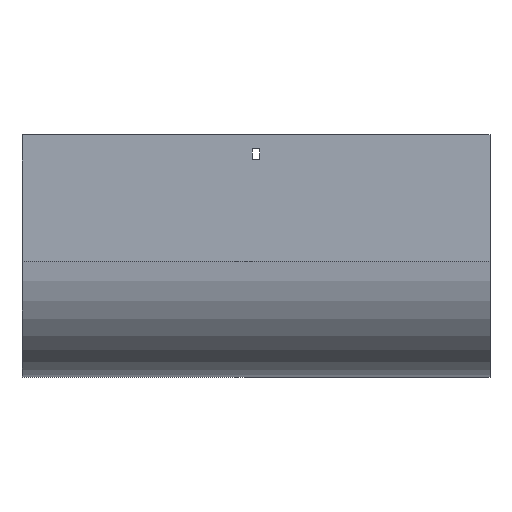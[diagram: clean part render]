
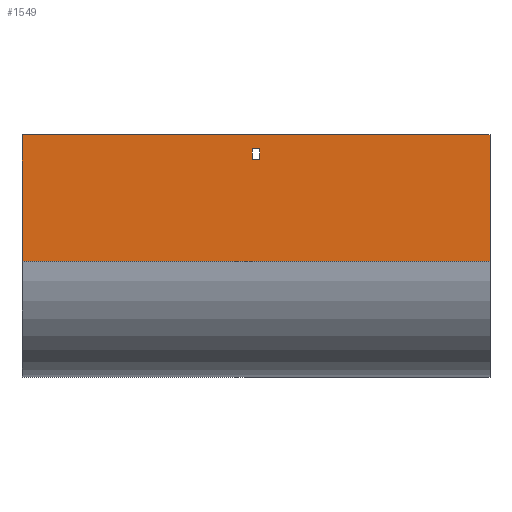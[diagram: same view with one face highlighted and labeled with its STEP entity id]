
A CAD part, front view. The second image highlights one B-rep face of the part: STEP entity #1549.
In plain terms, the highlighted planar face has unit normal (0, -1, 0).
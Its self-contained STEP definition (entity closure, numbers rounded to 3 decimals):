
#12 = CARTESIAN_POINT ( 'NONE',  ( -3.25, -79., -21. ) ) ;
#20 = CARTESIAN_POINT ( 'NONE',  ( -3.25, -79., -21. ) ) ;
#56 = LINE ( 'NONE', #1271, #1047 ) ;
#68 = DIRECTION ( 'NONE',  ( 0., 1., 0. ) ) ;
#96 = DIRECTION ( 'NONE',  ( 0., 0., -1. ) ) ;
#99 = CARTESIAN_POINT ( 'NONE',  ( 202., -79., -109. ) ) ;
#100 = VERTEX_POINT ( 'NONE', #1796 ) ;
#117 = LINE ( 'NONE', #694, #1024 ) ;
#181 = CARTESIAN_POINT ( 'NONE',  ( 3.25, -79., -21. ) ) ;
#185 = VECTOR ( 'NONE', #307, 1000. ) ;
#207 = VECTOR ( 'NONE', #409, 1000. ) ;
#213 = CARTESIAN_POINT ( 'NONE',  ( 202., -79., -109. ) ) ;
#234 = VERTEX_POINT ( 'NONE', #1592 ) ;
#278 = LINE ( 'NONE', #1428, #1049 ) ;
#297 = PLANE ( 'NONE',  #796 ) ;
#304 = ORIENTED_EDGE ( 'NONE', *, *, #1326, .T. ) ;
#307 = DIRECTION ( 'NONE',  ( 0., 0., -1. ) ) ;
#377 = ORIENTED_EDGE ( 'NONE', *, *, #1154, .T. ) ;
#389 = CARTESIAN_POINT ( 'NONE',  ( -202., -79., -109. ) ) ;
#396 = CARTESIAN_POINT ( 'NONE',  ( -3.25, -79., -12. ) ) ;
#409 = DIRECTION ( 'NONE',  ( 0., 0., -1. ) ) ;
#427 = EDGE_LOOP ( 'NONE', ( #918, #304, #657, #1159 ) ) ;
#543 = DIRECTION ( 'NONE',  ( 1., 0., 0. ) ) ;
#574 = DIRECTION ( 'NONE',  ( 0., 0., 1. ) ) ;
#589 = VECTOR ( 'NONE', #1274, 1000. ) ;
#657 = ORIENTED_EDGE ( 'NONE', *, *, #1745, .T. ) ;
#682 = ORIENTED_EDGE ( 'NONE', *, *, #1340, .T. ) ;
#694 = CARTESIAN_POINT ( 'NONE',  ( -3.25, -79., -12. ) ) ;
#719 = VECTOR ( 'NONE', #1078, 1000. ) ;
#796 = AXIS2_PLACEMENT_3D ( 'NONE', #213, #68, #1379 ) ;
#797 = DIRECTION ( 'NONE',  ( -1., 0., 0. ) ) ;
#918 = ORIENTED_EDGE ( 'NONE', *, *, #1051, .T. ) ;
#927 = VERTEX_POINT ( 'NONE', #1908 ) ;
#972 = EDGE_CURVE ( 'NONE', #100, #1769, #1438, .T. ) ;
#1024 = VECTOR ( 'NONE', #543, 1000. ) ;
#1025 = ORIENTED_EDGE ( 'NONE', *, *, #972, .F. ) ;
#1038 = FACE_BOUND ( 'NONE', #427, .T. ) ;
#1043 = VERTEX_POINT ( 'NONE', #1192 ) ;
#1047 = VECTOR ( 'NONE', #797, 1000. ) ;
#1049 = VECTOR ( 'NONE', #574, 1000. ) ;
#1051 = EDGE_CURVE ( 'NONE', #234, #1111, #1211, .T. ) ;
#1077 = EDGE_CURVE ( 'NONE', #927, #234, #1494, .T. ) ;
#1078 = DIRECTION ( 'NONE',  ( -1., 0., 0. ) ) ;
#1111 = VERTEX_POINT ( 'NONE', #12 ) ;
#1121 = VERTEX_POINT ( 'NONE', #1671 ) ;
#1154 = EDGE_CURVE ( 'NONE', #100, #1043, #1371, .T. ) ;
#1159 = ORIENTED_EDGE ( 'NONE', *, *, #1077, .T. ) ;
#1192 = CARTESIAN_POINT ( 'NONE',  ( -202., -79., 0. ) ) ;
#1211 = LINE ( 'NONE', #20, #719 ) ;
#1271 = CARTESIAN_POINT ( 'NONE',  ( 202., -79., -109. ) ) ;
#1274 = DIRECTION ( 'NONE',  ( -1., 0., 0. ) ) ;
#1292 = ORIENTED_EDGE ( 'NONE', *, *, #1555, .F. ) ;
#1312 = LINE ( 'NONE', #389, #207 ) ;
#1326 = EDGE_CURVE ( 'NONE', #1111, #1714, #278, .T. ) ;
#1337 = EDGE_LOOP ( 'NONE', ( #682, #1292, #1025, #377 ) ) ;
#1340 = EDGE_CURVE ( 'NONE', #1043, #1121, #1312, .T. ) ;
#1371 = LINE ( 'NONE', #1418, #589 ) ;
#1379 = DIRECTION ( 'NONE',  ( 0., 0., 1. ) ) ;
#1418 = CARTESIAN_POINT ( 'NONE',  ( 202., -79., 0. ) ) ;
#1428 = CARTESIAN_POINT ( 'NONE',  ( -3.25, -79., -21. ) ) ;
#1438 = LINE ( 'NONE', #1631, #1915 ) ;
#1494 = LINE ( 'NONE', #181, #185 ) ;
#1549 = ADVANCED_FACE ( 'NONE', ( #1038, #1638 ), #297, .F. ) ;
#1555 = EDGE_CURVE ( 'NONE', #1769, #1121, #56, .T. ) ;
#1592 = CARTESIAN_POINT ( 'NONE',  ( 3.25, -79., -21. ) ) ;
#1631 = CARTESIAN_POINT ( 'NONE',  ( 202., -79., -109. ) ) ;
#1638 = FACE_OUTER_BOUND ( 'NONE', #1337, .T. ) ;
#1671 = CARTESIAN_POINT ( 'NONE',  ( -202., -79., -109. ) ) ;
#1714 = VERTEX_POINT ( 'NONE', #396 ) ;
#1745 = EDGE_CURVE ( 'NONE', #1714, #927, #117, .T. ) ;
#1769 = VERTEX_POINT ( 'NONE', #99 ) ;
#1796 = CARTESIAN_POINT ( 'NONE',  ( 202., -79., 0. ) ) ;
#1908 = CARTESIAN_POINT ( 'NONE',  ( 3.25, -79., -12. ) ) ;
#1915 = VECTOR ( 'NONE', #96, 1000. ) ;
